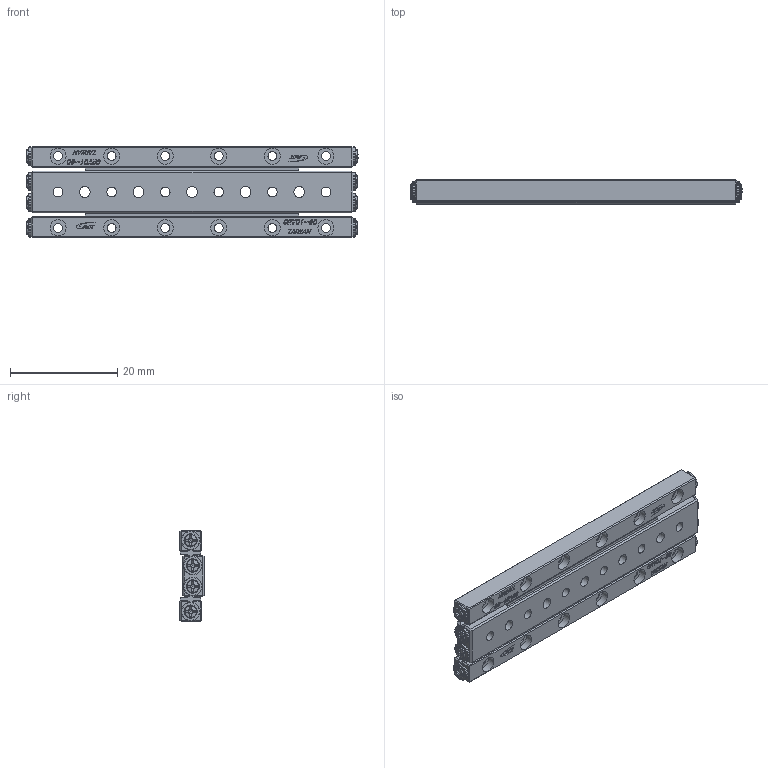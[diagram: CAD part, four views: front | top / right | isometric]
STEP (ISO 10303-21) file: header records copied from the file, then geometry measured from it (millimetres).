
FILE_DESCRIPTION (( 'STEP AP203' ), '1' );
FILE_NAME ('GRD01-60.STEP', '2023-08-09T05:19:55', ( '' ), ( '' ), 'SwSTEP 2.0', 'SolidWorks 2019', '' );
FILE_SCHEMA (( 'CONFIG_CONTROL_DESIGN' ));
Length unit declared in the file: millimetre
Products named in the file (4): GRV01-60-模糊化軌道; GRVP01-60-模糊化軌道; GRD01-60-模糊化中軌; GRD01-60
Assembly tree (5 placements, depth 2):
  GRD01-60
    GRD01-60-模糊化中軌
    GRV01-60-模糊化軌道  x2
    GRVP01-60-模糊化軌道  x2
Bounding box: 61.96 x 4.5 x 17 mm (x, y, z)
Volume: 3436 mm3; surface area: 5165.6 mm2
Topology: 5 solids, 13 shells, 1990 faces, 5054 edges, 3284 vertices
Faces by surface type: plane 1349, bspline 304, cylinder 173, cone 80, torus 76, sphere 8
Full cylindrical faces by diameter (mm): 1.32 x8, 1.65 x12, 1.8 x6, 2 x5, 2.5 x8, 3 x18, 3.5 x8
Entity records: 41212 total; most frequent: CARTESIAN_POINT 13436, ORIENTED_EDGE 5908, DIRECTION 4876, EDGE_CURVE 2954, LINE 1992, VECTOR 1992, VERTEX_POINT 1948, AXIS2_PLACEMENT_3D 1442
